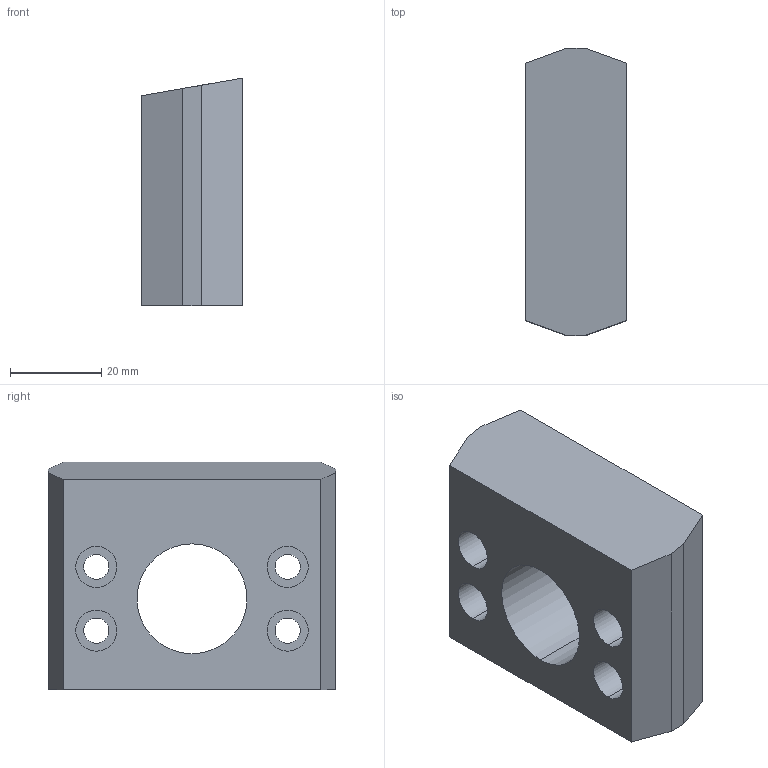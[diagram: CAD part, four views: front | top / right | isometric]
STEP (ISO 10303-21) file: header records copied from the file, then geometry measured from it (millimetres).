
FILE_DESCRIPTION((''),'2;1');
FILE_NAME('I:\DOC-EDP\Lib-3d\FRL\17382E.stp','2003-06-16T15:01:27',('maffial1'),(''),'Autodesk Inventor 7','Autodesk Inventor 7','');
FILE_SCHEMA(('AUTOMOTIVE_DESIGN { 1 0 10303 214 1 1 1 1 }'));
Length unit declared in the file: millimetre
Products named in the file (1): 17382E
Bounding box: 22 x 63 x 50 mm (x, y, z)
Volume: 50044.4 mm3; surface area: 12849.1 mm2
Topology: 1 solids, 1 shells, 32 faces, 78 edges, 52 vertices
Faces by surface type: bspline 22, plane 10
Entity records: 1235 total; most frequent: CARTESIAN_POINT 481, ORIENTED_EDGE 156, DIRECTION 136, EDGE_CURVE 78, VERTEX_POINT 52, AXIS2_PLACEMENT_3D 47, EDGE_LOOP 46, VECTOR 42
